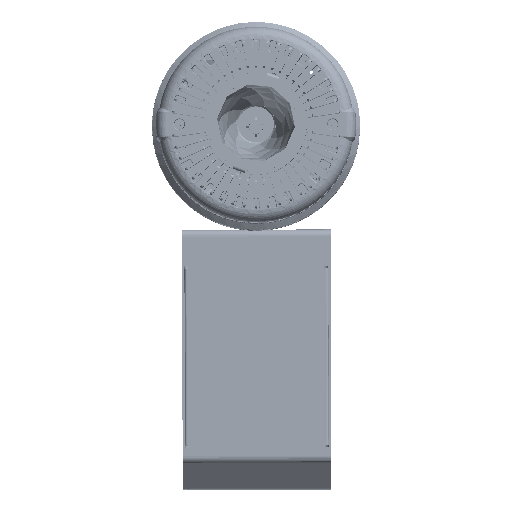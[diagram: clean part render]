
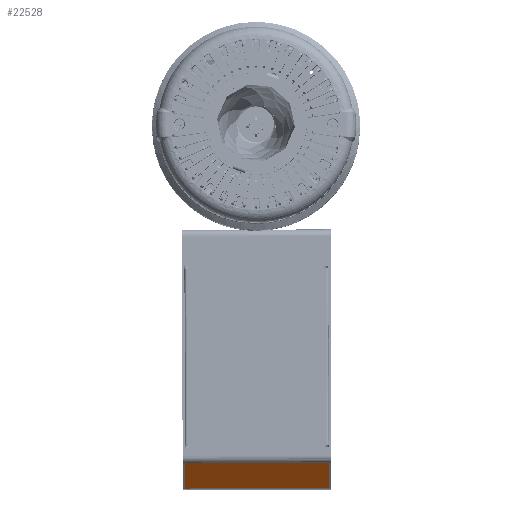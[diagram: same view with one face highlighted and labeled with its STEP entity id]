
A CAD part, front view. The second image highlights one B-rep face of the part: STEP entity #22528.
In plain terms, the highlighted planar face has unit normal (0.003, -0.364, -0.931) as drawn and (-0.94, -0.342, 0) by its records, which use the part's own axes.
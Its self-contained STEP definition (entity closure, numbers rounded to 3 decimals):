
#1126 = CARTESIAN_POINT ( 'NONE',  ( -80.487, 40.448, 46. ) ) ;
#3891 = LINE ( 'NONE', #1126, #90942 ) ;
#4046 = VERTEX_POINT ( 'NONE', #106938 ) ;
#9130 = PLANE ( 'NONE',  #60933 ) ;
#14625 = ORIENTED_EDGE ( 'NONE', *, *, #177829, .F. ) ;
#22528 = ADVANCED_FACE ( 'NONE', ( #203629 ), #9130, .F. ) ;
#26001 = CARTESIAN_POINT ( 'NONE',  ( -80.487, 40.448, -46. ) ) ;
#30234 = EDGE_CURVE ( 'NONE', #44307, #204010, #116461, .T. ) ;
#36330 = VECTOR ( 'NONE', #238264, 1000. ) ;
#44307 = VERTEX_POINT ( 'NONE', #26001 ) ;
#48669 = CARTESIAN_POINT ( 'NONE',  ( -80.487, 40.448, 46. ) ) ;
#55238 = ORIENTED_EDGE ( 'NONE', *, *, #193966, .F. ) ;
#58194 = ORIENTED_EDGE ( 'NONE', *, *, #249117, .T. ) ;
#60933 = AXIS2_PLACEMENT_3D ( 'NONE', #95712, #263387, #90091 ) ;
#74519 = DIRECTION ( 'NONE',  ( 0.342, -0.94, 0. ) ) ;
#87694 = LINE ( 'NONE', #241023, #36330 ) ;
#90091 = DIRECTION ( 'NONE',  ( -0.342, 0.94, 0. ) ) ;
#90942 = VECTOR ( 'NONE', #174288, 1000. ) ;
#92319 = CARTESIAN_POINT ( 'NONE',  ( -65.209, -1.528, -46. ) ) ;
#95712 = CARTESIAN_POINT ( 'NONE',  ( -65.209, -1.528, 46. ) ) ;
#103079 = VECTOR ( 'NONE', #74519, 1000. ) ;
#106938 = CARTESIAN_POINT ( 'NONE',  ( -65.209, -1.528, 46. ) ) ;
#116461 = LINE ( 'NONE', #92319, #270418 ) ;
#170870 = CARTESIAN_POINT ( 'NONE',  ( -65.209, -1.528, -46. ) ) ;
#174288 = DIRECTION ( 'NONE',  ( 0., 0., -1. ) ) ;
#177829 = EDGE_CURVE ( 'NONE', #4046, #204010, #87694, .T. ) ;
#184525 = DIRECTION ( 'NONE',  ( 0.342, -0.94, 0. ) ) ;
#184643 = ORIENTED_EDGE ( 'NONE', *, *, #30234, .T. ) ;
#193966 = EDGE_CURVE ( 'NONE', #253286, #4046, #227872, .T. ) ;
#203629 = FACE_OUTER_BOUND ( 'NONE', #275338, .T. ) ;
#204010 = VERTEX_POINT ( 'NONE', #170870 ) ;
#207933 = CARTESIAN_POINT ( 'NONE',  ( -65.209, -1.528, 46. ) ) ;
#227872 = LINE ( 'NONE', #207933, #103079 ) ;
#238264 = DIRECTION ( 'NONE',  ( 0., 0., -1. ) ) ;
#241023 = CARTESIAN_POINT ( 'NONE',  ( -65.209, -1.528, 46. ) ) ;
#249117 = EDGE_CURVE ( 'NONE', #253286, #44307, #3891, .T. ) ;
#253286 = VERTEX_POINT ( 'NONE', #48669 ) ;
#263387 = DIRECTION ( 'NONE',  ( 0.94, 0.342, 0. ) ) ;
#270418 = VECTOR ( 'NONE', #184525, 1000. ) ;
#275338 = EDGE_LOOP ( 'NONE', ( #184643, #14625, #55238, #58194 ) ) ;
